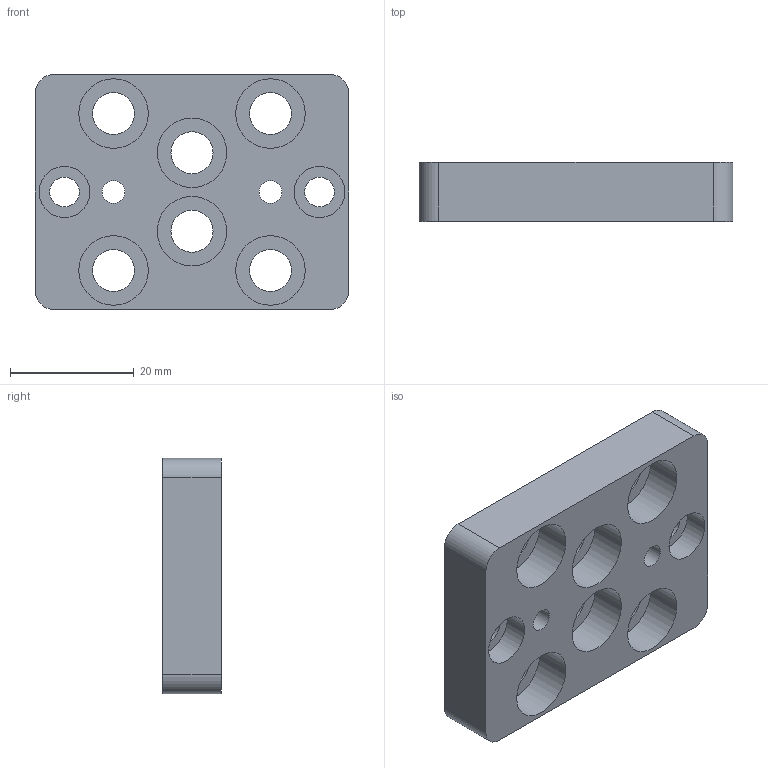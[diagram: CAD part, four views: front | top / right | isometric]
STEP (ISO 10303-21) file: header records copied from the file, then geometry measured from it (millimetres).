
FILE_DESCRIPTION( ( 'Unknown' ), '1' );
FILE_NAME( 'S:/A & P Tool/Start Button Swivel Mount/STP - IGES master files/AFSB-663XS-AI.stp', 'Unknown', ( 'Unknown' ), ( 'Unknown' ), 'PSStep 16.0.42', 'Unknown', ' ' );
FILE_SCHEMA( ( 'AUTOMOTIVE_DESIGN { 1 0 10303 214 1 1 1 1 }' ) );
Length unit declared in the file: millimetre
Products named in the file (1): 1
Bounding box: 50.8 x 9.53 x 38.1 mm (x, y, z)
Volume: 13176.2 mm3; surface area: 7262.9 mm2
Topology: 1 solids, 1 shells, 36 faces, 88 edges, 62 vertices
Faces by surface type: cylinder 22, plane 14
Full cylindrical faces by diameter (mm): 3.68 x2, 4.8 x2, 6.8 x6, 8.25 x2, 11.25 x6
Entity records: 1260 total; most frequent: DIRECTION 178, CARTESIAN_POINT 149, ORIENTED_EDGE 120, EDGE_LOOP 82, AXIS2_PLACEMENT_3D 81, EDGE_CURVE 60, FACE_OUTER_BOUND 54, VERTEX_POINT 52
